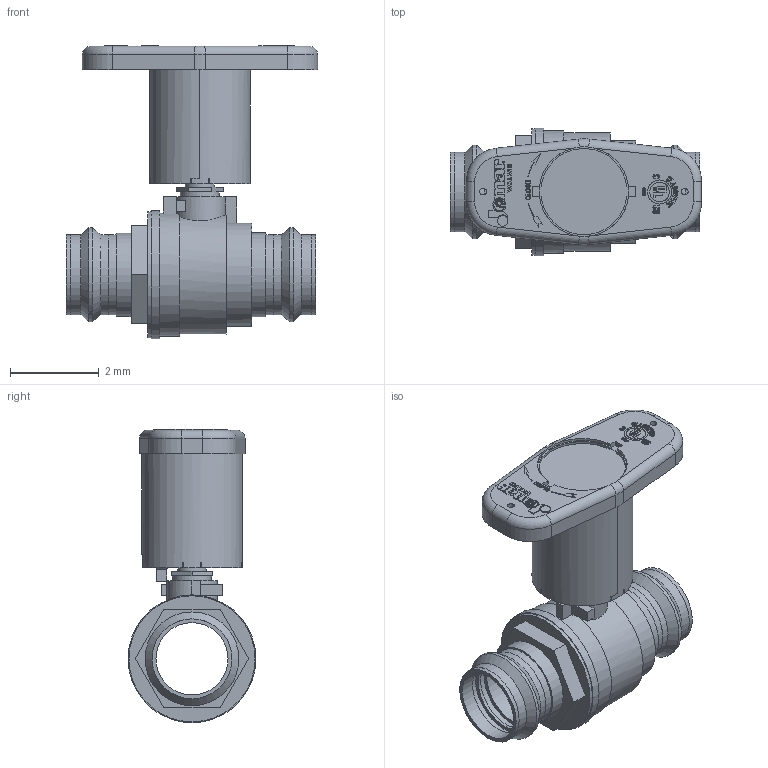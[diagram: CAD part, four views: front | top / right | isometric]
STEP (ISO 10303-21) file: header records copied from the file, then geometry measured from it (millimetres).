
FILE_DESCRIPTION(('Open CASCADE Model'),'2;1');
FILE_NAME('Open CASCADE Shape Model','2021-10-14T09:05:52',('Author'),( 'Open CASCADE'),'Open CASCADE STEP processor 7.3','Open CASCADE 7.3' ,'Unknown');
FILE_SCHEMA(('AUTOMOTIVE_DESIGN { 1 0 10303 214 1 1 1 1 }'));
Length unit declared in the file: millimetre
Products named in the file (12): Open CASCADE STEP translator 7.3 1; Open CASCADE STEP translator 7.3 1.1; Open CASCADE STEP translator 7.3 1.2; Open CASCADE STEP translator 7.3 1.3; Open CASCADE STEP translator 7.3 1.4; Open CASCADE STEP translator 7.3 1.5; Open CASCADE STEP translator 7.3 1.6; Open CASCADE STEP translator 7.3 1.7; Open CASCADE STEP translator 7.3 1.8; Open CASCADE STEP translator 7.3 1.9; Open CASCADE STEP translator 7.3 1.10; Open CASCADE STEP translator 7.3 1.11
Assembly tree (11 placements, depth 2):
  Open CASCADE STEP translator 7.3 1
    Open CASCADE STEP translator 7.3 1.1
    Open CASCADE STEP translator 7.3 1.2
    Open CASCADE STEP translator 7.3 1.3
    Open CASCADE STEP translator 7.3 1.4
    Open CASCADE STEP translator 7.3 1.5
    Open CASCADE STEP translator 7.3 1.6
    Open CASCADE STEP translator 7.3 1.7
    Open CASCADE STEP translator 7.3 1.8
    Open CASCADE STEP translator 7.3 1.9
    Open CASCADE STEP translator 7.3 1.10
    Open CASCADE STEP translator 7.3 1.11
Bounding box: 5.65 x 2.88 x 6.61 mm (x, y, z)
Volume: 17.4 mm3; surface area: 172.4 mm2
Topology: 3 solids, 11 shells, 2690 faces, 7803 edges, 5194 vertices
Faces by surface type: plane 2533, cylinder 137, cone 8, torus 6, extrusion 6
Full cylindrical faces by diameter (mm): 0.028 x1, 0.033 x1, 0.085 x1, 0.151 x2, 0.184 x1, 0.237 x1, 0.654 x1, 0.88 x1, 1.625 x5, 1.797 x2, 1.798 x4, 1.802 x2, 1.804 x4, 1.826 x1, 1.878 x1, 1.883 x1, 1.887 x1, 2.11 x2, 2.323 x1, 2.764 x1, 2.838 x1, 2.878 x1
Entity records: 190104 total; most frequent: CARTESIAN_POINT 33392, DIRECTION 28886, VECTOR 22628, LINE 22622, ORIENTED_EDGE 15590, PCURVE 15582, DEFINITIONAL_REPRESENTATION 15582, EDGE_CURVE 7803
